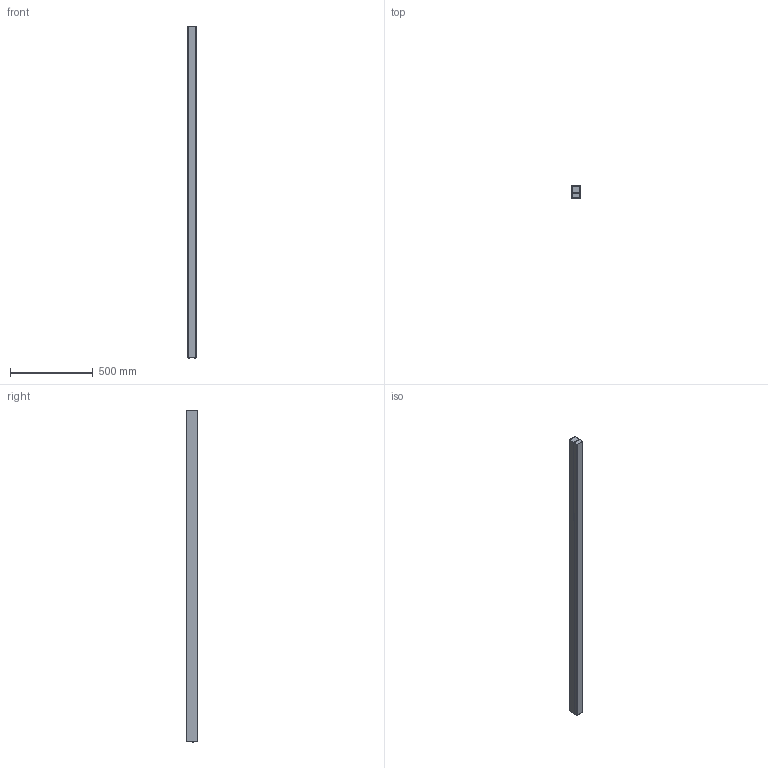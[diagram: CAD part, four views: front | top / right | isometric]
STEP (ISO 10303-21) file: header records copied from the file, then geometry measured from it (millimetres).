
FILE_DESCRIPTION(('STEP AP203'), '1');
FILE_NAME('MIKKO ULTRA', '', ('UNSPECIFIED'), ('UNSPECIFIED'), 'ASCON STEP Converter 1.6', 'ASCON Math Kernel', '');
FILE_SCHEMA(('CONFIG_CONTROL_DESIGN'));
Length unit declared in the file: millimetre
Assembly tree (4 placements, depth 2):
  (unnamed)
    (unnamed)  x4
Bounding box: 50 x 70 x 2002.3 mm (x, y, z)
Volume: 874373.9 mm3; surface area: 1342870.4 mm2
Topology: 9 solids, 9 shells, 336 faces, 925 edges, 620 vertices
Faces by surface type: plane 160, cylinder 138, bspline 16, cone 12, torus 10
Full cylindrical faces by diameter (mm): 2.9 x4, 6.3 x4, 8 x1, 10 x2, 14 x2
Entity records: 10791 total; most frequent: CARTESIAN_POINT 1706, DIRECTION 1524, ORIENTED_EDGE 1442, EDGE_CURVE 721, AXIS2_PLACEMENT_3D 547, VERTEX_POINT 489, LINE 430, VECTOR 430
